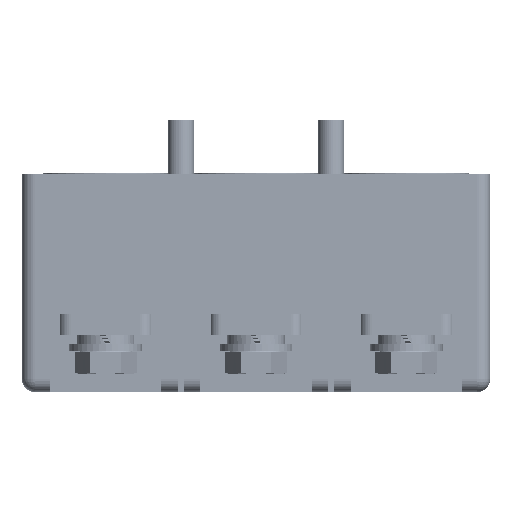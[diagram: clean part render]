
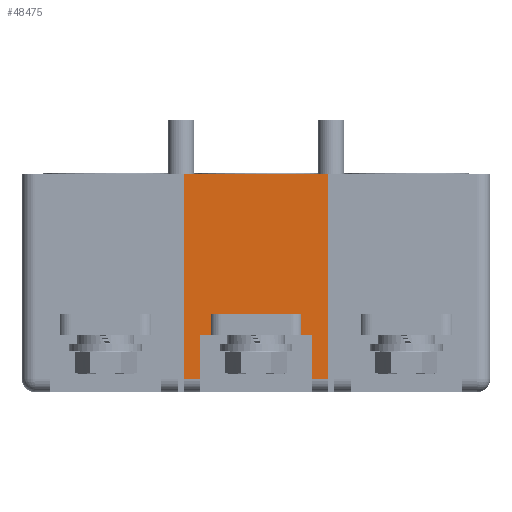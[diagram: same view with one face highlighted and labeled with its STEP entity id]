
A CAD part, front view. The second image highlights one B-rep face of the part: STEP entity #48475.
In plain terms, the highlighted planar face has unit normal (0, -1, 0) as drawn and (0, 0, -1) by its records, which use the part's own axes.
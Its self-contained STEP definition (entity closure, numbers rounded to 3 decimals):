
#513 = VECTOR ( 'NONE', #33299, 1000. ) ;
#1286 = VERTEX_POINT ( 'NONE', #5186 ) ;
#1526 = CARTESIAN_POINT ( 'NONE',  ( 21.5, 62., -31.75 ) ) ;
#1549 = VECTOR ( 'NONE', #46963, 1000. ) ;
#2468 = VECTOR ( 'NONE', #9910, 1000. ) ;
#3675 = VECTOR ( 'NONE', #41150, 1000. ) ;
#3829 = ORIENTED_EDGE ( 'NONE', *, *, #23809, .T. ) ;
#4702 = LINE ( 'NONE', #20938, #3675 ) ;
#5186 = CARTESIAN_POINT ( 'NONE',  ( 17.45, 54., -31.75 ) ) ;
#5769 = CARTESIAN_POINT ( 'NONE',  ( -17.45, 54., -31.75 ) ) ;
#6181 = EDGE_CURVE ( 'NONE', #17215, #32513, #12895, .T. ) ;
#6310 = LINE ( 'NONE', #14178, #20223 ) ;
#6321 = VERTEX_POINT ( 'NONE', #9716 ) ;
#9716 = CARTESIAN_POINT ( 'NONE',  ( 21.5, 79., -31.75 ) ) ;
#9885 = VERTEX_POINT ( 'NONE', #26314 ) ;
#9910 = DIRECTION ( 'NONE',  ( 0., -1., 0. ) ) ;
#11823 = AXIS2_PLACEMENT_3D ( 'NONE', #12100, #48306, #24161 ) ;
#12100 = CARTESIAN_POINT ( 'NONE',  ( -90.25, 84., -31.75 ) ) ;
#12539 = VERTEX_POINT ( 'NONE', #46374 ) ;
#12895 = LINE ( 'NONE', #24184, #21831 ) ;
#13786 = EDGE_CURVE ( 'NONE', #32513, #1286, #21202, .T. ) ;
#14178 = CARTESIAN_POINT ( 'NONE',  ( -17.45, 84., -31.75 ) ) ;
#15167 = EDGE_CURVE ( 'NONE', #16792, #9885, #6310, .T. ) ;
#15632 = ORIENTED_EDGE ( 'NONE', *, *, #23001, .F. ) ;
#16265 = ORIENTED_EDGE ( 'NONE', *, *, #23984, .F. ) ;
#16714 = ORIENTED_EDGE ( 'NONE', *, *, #13786, .F. ) ;
#16792 = VERTEX_POINT ( 'NONE', #5769 ) ;
#16941 = VERTEX_POINT ( 'NONE', #50924 ) ;
#17215 = VERTEX_POINT ( 'NONE', #1526 ) ;
#18046 = LINE ( 'NONE', #45115, #513 ) ;
#18374 = VECTOR ( 'NONE', #49570, 1000. ) ;
#18607 = ORIENTED_EDGE ( 'NONE', *, *, #19026, .T. ) ;
#18816 = LINE ( 'NONE', #26430, #35208 ) ;
#19026 = EDGE_CURVE ( 'NONE', #42035, #16941, #4702, .T. ) ;
#20223 = VECTOR ( 'NONE', #21527, 1000. ) ;
#20938 = CARTESIAN_POINT ( 'NONE',  ( -90.25, 0., -31.75 ) ) ;
#21202 = LINE ( 'NONE', #33283, #18374 ) ;
#21527 = DIRECTION ( 'NONE',  ( 0., 1., 0. ) ) ;
#21572 = VECTOR ( 'NONE', #29949, 1000. ) ;
#21831 = VECTOR ( 'NONE', #23933, 1000. ) ;
#23001 = EDGE_CURVE ( 'NONE', #6321, #17215, #29831, .T. ) ;
#23440 = CARTESIAN_POINT ( 'NONE',  ( -21.5, 62., -31.75 ) ) ;
#23718 = ORIENTED_EDGE ( 'NONE', *, *, #25453, .F. ) ;
#23809 = EDGE_CURVE ( 'NONE', #16941, #37140, #18816, .T. ) ;
#23933 = DIRECTION ( 'NONE',  ( -1., 0., 0. ) ) ;
#23984 = EDGE_CURVE ( 'NONE', #9885, #51860, #35100, .T. ) ;
#24159 = VECTOR ( 'NONE', #44580, 1000. ) ;
#24161 = DIRECTION ( 'NONE',  ( 1., 0., 0. ) ) ;
#24184 = CARTESIAN_POINT ( 'NONE',  ( 21.5, 62., -31.75 ) ) ;
#24266 = CARTESIAN_POINT ( 'NONE',  ( 27.75, 79., -31.75 ) ) ;
#24899 = ORIENTED_EDGE ( 'NONE', *, *, #6181, .F. ) ;
#25199 = VECTOR ( 'NONE', #40088, 1000. ) ;
#25453 = EDGE_CURVE ( 'NONE', #51860, #12539, #18046, .T. ) ;
#26314 = CARTESIAN_POINT ( 'NONE',  ( -17.45, 62., -31.75 ) ) ;
#26430 = CARTESIAN_POINT ( 'NONE',  ( -27.75, 84., -31.75 ) ) ;
#26874 = ORIENTED_EDGE ( 'NONE', *, *, #40968, .T. ) ;
#27263 = CARTESIAN_POINT ( 'NONE',  ( -90.25, 79., -31.75 ) ) ;
#28382 = ORIENTED_EDGE ( 'NONE', *, *, #35285, .T. ) ;
#29831 = LINE ( 'NONE', #34572, #2468 ) ;
#29949 = DIRECTION ( 'NONE',  ( 0., -1., 0. ) ) ;
#30295 = DIRECTION ( 'NONE',  ( 1., 0., 0. ) ) ;
#30429 = LINE ( 'NONE', #27263, #1549 ) ;
#31680 = CARTESIAN_POINT ( 'NONE',  ( -17.25, 62., -31.75 ) ) ;
#32036 = PLANE ( 'NONE',  #11823 ) ;
#32513 = VERTEX_POINT ( 'NONE', #40565 ) ;
#32768 = LINE ( 'NONE', #36463, #24159 ) ;
#33283 = CARTESIAN_POINT ( 'NONE',  ( 17.45, 84., -31.75 ) ) ;
#33299 = DIRECTION ( 'NONE',  ( 0., 1., 0. ) ) ;
#33726 = LINE ( 'NONE', #50791, #34073 ) ;
#34073 = VECTOR ( 'NONE', #30295, 1000. ) ;
#34317 = DIRECTION ( 'NONE',  ( 0., 1., 0. ) ) ;
#34349 = CARTESIAN_POINT ( 'NONE',  ( -27.75, 79., -31.75 ) ) ;
#34572 = CARTESIAN_POINT ( 'NONE',  ( 21.5, 84., -31.75 ) ) ;
#35100 = LINE ( 'NONE', #31680, #25199 ) ;
#35208 = VECTOR ( 'NONE', #34317, 1000. ) ;
#35285 = EDGE_CURVE ( 'NONE', #6321, #44908, #33726, .T. ) ;
#35412 = EDGE_LOOP ( 'NONE', ( #51987, #16714, #24899, #15632, #28382, #26874, #18607, #3829, #48053, #23718, #16265, #48686 ) ) ;
#36463 = CARTESIAN_POINT ( 'NONE',  ( 17.25, 54., -31.75 ) ) ;
#36538 = EDGE_CURVE ( 'NONE', #1286, #16792, #32768, .T. ) ;
#37140 = VERTEX_POINT ( 'NONE', #34349 ) ;
#37861 = CARTESIAN_POINT ( 'NONE',  ( 27.75, 84., -31.75 ) ) ;
#40088 = DIRECTION ( 'NONE',  ( -1., 0., 0. ) ) ;
#40565 = CARTESIAN_POINT ( 'NONE',  ( 17.45, 62., -31.75 ) ) ;
#40968 = EDGE_CURVE ( 'NONE', #44908, #42035, #41780, .T. ) ;
#41150 = DIRECTION ( 'NONE',  ( -1., 0., 0. ) ) ;
#41780 = LINE ( 'NONE', #37861, #21572 ) ;
#42035 = VERTEX_POINT ( 'NONE', #47605 ) ;
#42780 = EDGE_CURVE ( 'NONE', #37140, #12539, #30429, .T. ) ;
#43850 = FACE_OUTER_BOUND ( 'NONE', #35412, .T. ) ;
#44580 = DIRECTION ( 'NONE',  ( -1., 0., 0. ) ) ;
#44908 = VERTEX_POINT ( 'NONE', #24266 ) ;
#45115 = CARTESIAN_POINT ( 'NONE',  ( -21.5, 62., -31.75 ) ) ;
#46374 = CARTESIAN_POINT ( 'NONE',  ( -21.5, 79., -31.75 ) ) ;
#46963 = DIRECTION ( 'NONE',  ( 1., 0., 0. ) ) ;
#47605 = CARTESIAN_POINT ( 'NONE',  ( 27.75, 0., -31.75 ) ) ;
#48053 = ORIENTED_EDGE ( 'NONE', *, *, #42780, .T. ) ;
#48306 = DIRECTION ( 'NONE',  ( 0., 0., 1. ) ) ;
#48475 = ADVANCED_FACE ( 'NONE', ( #43850 ), #32036, .F. ) ;
#48686 = ORIENTED_EDGE ( 'NONE', *, *, #15167, .F. ) ;
#49570 = DIRECTION ( 'NONE',  ( 0., -1., 0. ) ) ;
#50791 = CARTESIAN_POINT ( 'NONE',  ( -90.25, 79., -31.75 ) ) ;
#50924 = CARTESIAN_POINT ( 'NONE',  ( -27.75, 0., -31.75 ) ) ;
#51860 = VERTEX_POINT ( 'NONE', #23440 ) ;
#51987 = ORIENTED_EDGE ( 'NONE', *, *, #36538, .F. ) ;
